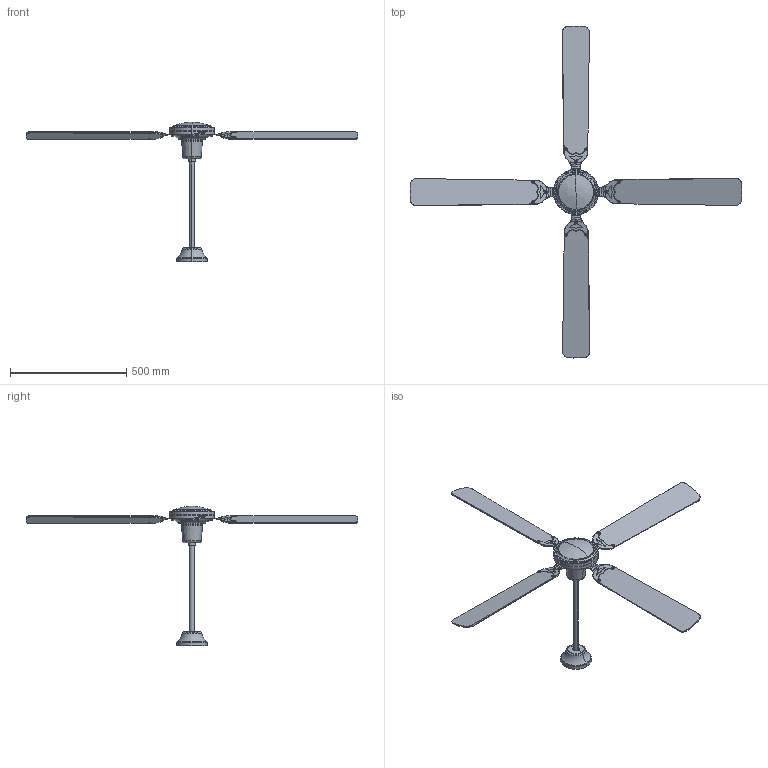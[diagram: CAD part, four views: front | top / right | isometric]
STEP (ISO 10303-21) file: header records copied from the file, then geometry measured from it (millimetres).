
FILE_DESCRIPTION(/* description */ (''),/* implementation_level */ '2;1');
FILE_NAME(/* name */ 'C:\Users\FrancoSartori\Documents\FARO\01_En Proceso\000_SOLICITUD INFO SIN PROCESAR\00_MALVINAS\03_Publicación\33111.stp',/* time_stamp */ '2022-09-06T08:24:38+02:00',/* author */ ('FrancoSartori'),/* organization */ (''),/* preprocessor_version */ 'ST-DEVELOPER v19.2',/* originating_system */ 'AutoCAD Mechanical',/* authorisation */ '');
FILE_SCHEMA (('AUTOMOTIVE_DESIGN { 1 0 10303 214 3 1 1 }'));
Length unit declared in the file: millimetre
Products named in the file (2): Product; MALVINAS_ - fan-480414-Export
Assembly tree (1 placements, depth 2):
  Product
    MALVINAS_ - fan-480414-Export
Bounding box: 1427.52 x 1427.52 x 600 mm (x, y, z)
Volume: 3760892.5 mm3; surface area: 1355406.8 mm2
Topology: 43 solids, 55 shells, 993 faces, 2712 edges, 1732 vertices
Faces by surface type: cylinder 436, plane 346, torus 77, bspline 76, sphere 48, cone 10
Entity records: 41645 total; most frequent: CARTESIAN_POINT 17928, ORIENTED_EDGE 5058, DIRECTION 4419, EDGE_CURVE 2649, VERTEX_POINT 1732, AXIS2_PLACEMENT_3D 1677, EDGE_LOOP 1149, LINE 1065
